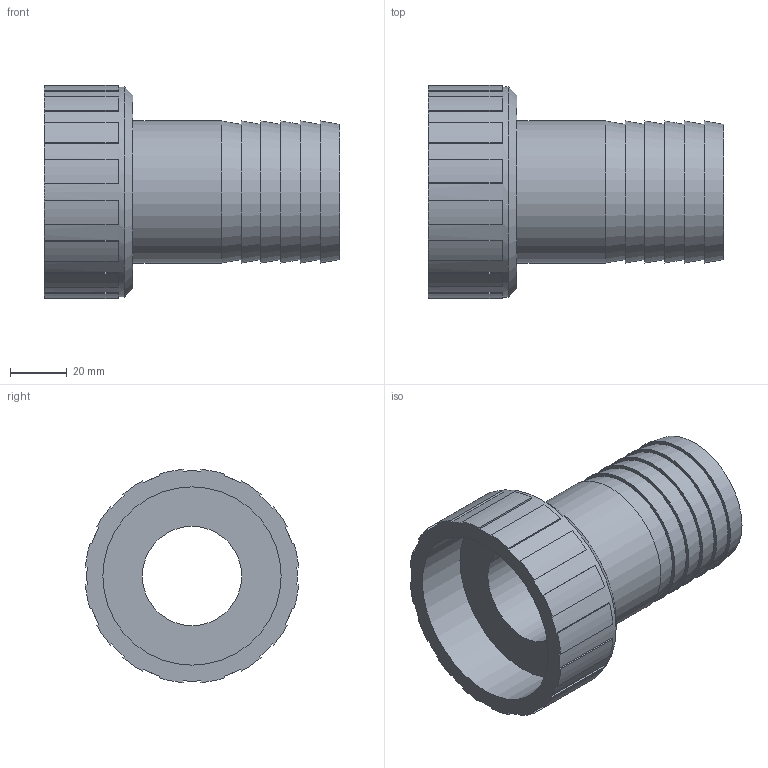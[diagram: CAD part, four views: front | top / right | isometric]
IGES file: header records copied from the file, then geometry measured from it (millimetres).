
Global section: file name: 053602050023.ipt; native system: Autodesk Inventor 2015; preprocessor: unknown; author: KIM; date: 20171207.165546; units: millimetre
Bounding box: 104 x 75.04 x 75.04 mm (x, y, z)
Volume: 134514.5 mm3; surface area: 39447.3 mm2
Topology: 1 solids, 1 shells, 84 faces, 227 edges, 152 vertices
Faces by surface type: plane 57, cylinder 18, cone 7, revolution 2
Full cylindrical faces by diameter (mm): 50 x1, 74.047 x1
